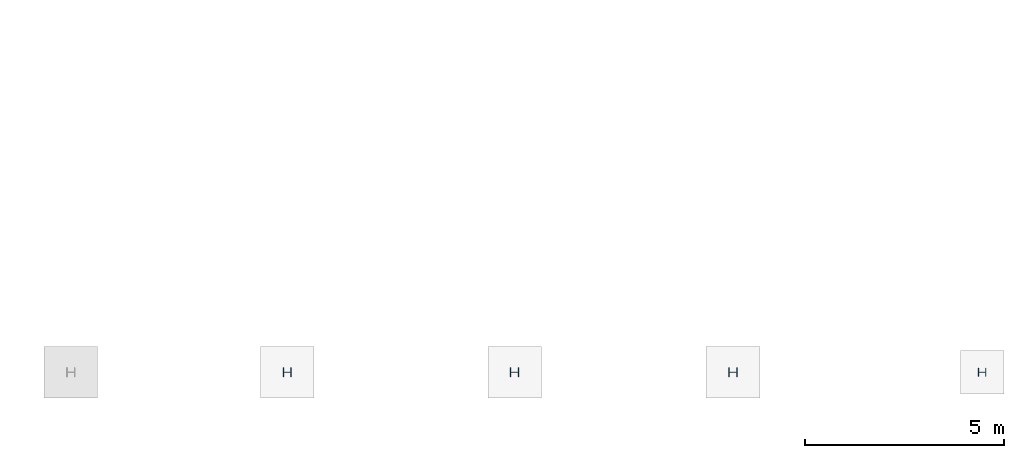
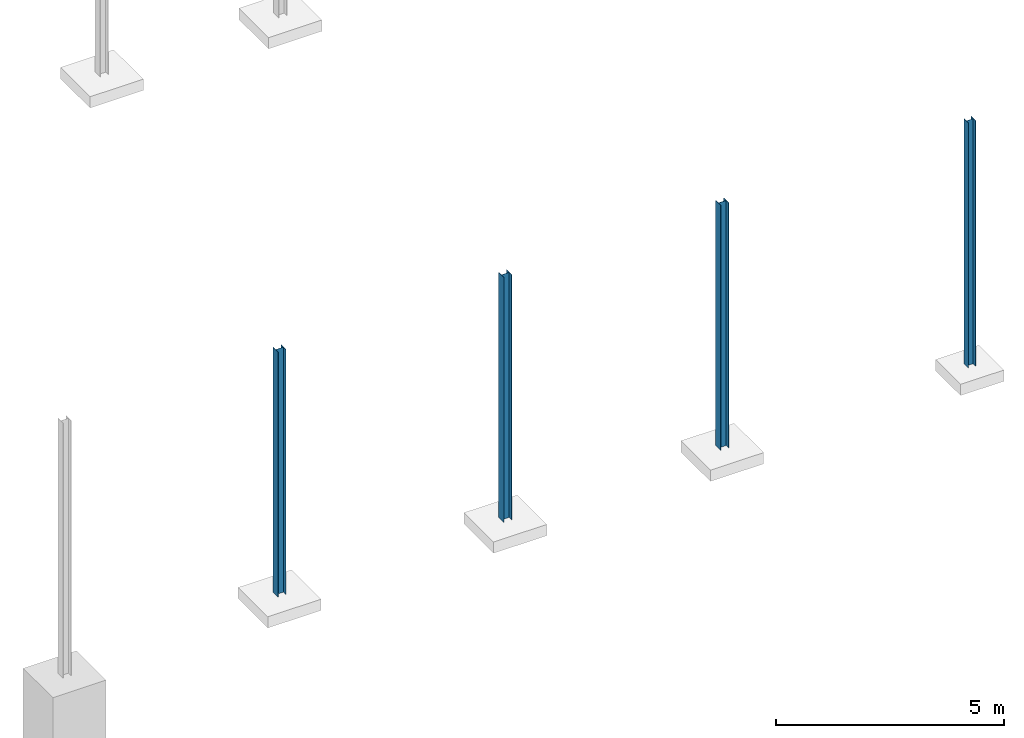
# One storey, part 33 of 59: 4 columns.
"""IFC2X3 building model written with IfcOpenShell, lengths in metres."""

from ifc_helpers import new_model, entity, si_unit, converted_unit, derived_unit, frame, origin, origin_with_axes, place, context, subcontext, project, spatial, polyline, outline, extrude, material, element, save


model = new_model("IFC2X3")

# Units and contexts
model_context = context("Model", 3, precision=1e-05, world=origin())
body_context = subcontext(model_context, "Body", "Model", "MODEL_VIEW")
ifc_project = project(units=[si_unit("LENGTHUNIT", "METRE"), si_unit("AREAUNIT", "SQUARE_METRE"), si_unit("VOLUMEUNIT", "CUBIC_METRE"), si_unit("MASSUNIT", "GRAM", prefix="KILO"), converted_unit("PLANEANGLEUNIT", "DEGREE", entity("IfcPlaneAngleMeasure", 0.0174532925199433), si_unit("PLANEANGLEUNIT", "RADIAN"), dimensions=[0, 0, 0, 0, 0, 0, 0]), derived_unit("THERMALTRANSMITTANCEUNIT", [(si_unit("POWERUNIT", "WATT"), 1), (si_unit("THERMODYNAMICTEMPERATUREUNIT", "KELVIN"), -1), (si_unit("LENGTHUNIT", "METRE"), -2)]), derived_unit("VOLUMETRICFLOWRATEUNIT", [(si_unit("LENGTHUNIT", "METRE"), 3), (converted_unit("TIMEUNIT", "hour", entity("IfcTimeMeasure", 3600.0), si_unit("TIMEUNIT", "SECOND"), dimensions=[0, 0, 1, 0, 0, 0, 0]), -1), (si_unit("LENGTHUNIT", "METRE"), -1)])], contexts=[model_context])

# Site, building, storey
site_placement = place(None, origin())
site = spatial("IfcSite", under=ifc_project, at=site_placement, Name="TWP_Speiseverteilzentrum SBW VZ II", CompositionType="ELEMENT")
building_placement = place(site_placement, origin())
building = spatial("IfcBuilding", under=site, at=building_placement, Name="Speiseverteilzentrum SBW VZ II", CompositionType="ELEMENT")
storey_placement = place(building_placement, frame((0.0, 0.0, 1.7307)))
storey = spatial("IfcBuildingStorey", under=building, at=storey_placement, Name="EG_Produktion_FFB", CompositionType="ELEMENT", Elevation=1.7307)

# Columns
ifc_material_1 = material(Name="S235")
column_1_placement = place(storey_placement, frame((101.47, 10.5801485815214, -1.05)))
element("IfcColumn", 1, at=column_1_placement, inside=storey, material=ifc_material_1, Name="Stahlstütze", context=body_context, shape_type="SweptSolid", body=[
    extrude(outline(polyline([(0.21, 0.0), (0.21, 0.22), (0.199, 0.22), (0.199, 0.1135), (0.011, 0.1135), (0.011, 0.22), (0.0, 0.22), (0.0, 0.0), (0.011, 0.0), (0.011, 0.1065), (0.199, 0.1065), (0.199, 0.0), (0.21, 0.0)])), origin_with_axes(), (0.0, 0.0, 1.0), 6.5693),
])
ifc_material_2 = material(Name="S235")
column_2_placement = place(storey_placement, frame((107.195, 10.5801485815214, -1.05)))
element("IfcColumn", 2, at=column_2_placement, inside=storey, material=ifc_material_2, Name="Stahlstütze", context=body_context, shape_type="SweptSolid", body=[
    extrude(outline(polyline([(0.21, 0.0), (0.21, 0.22), (0.199, 0.22), (0.199, 0.1135), (0.011, 0.1135), (0.011, 0.22), (0.0, 0.22), (0.0, 0.0), (0.011, 0.0), (0.011, 0.1065), (0.199, 0.1065), (0.199, 0.0), (0.21, 0.0)])), origin_with_axes(), (0.0, 0.0, 1.0), 6.5693),
])
ifc_material_3 = material(Name="S235")
column_3_placement = place(storey_placement, frame((112.695, 10.5801485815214, -1.05)))
element("IfcColumn", 3, at=column_3_placement, inside=storey, material=ifc_material_3, Name="Stahlstütze", context=body_context, shape_type="SweptSolid", body=[
    extrude(outline(polyline([(0.21, 0.0), (0.21, 0.22), (0.199, 0.22), (0.199, 0.1135), (0.011, 0.1135), (0.011, 0.22), (0.0, 0.22), (0.0, 0.0), (0.011, 0.0), (0.011, 0.1065), (0.199, 0.1065), (0.199, 0.0), (0.21, 0.0)])), origin_with_axes(), (0.0, 0.0, 1.0), 6.5693),
])
ifc_material_4 = material(Name="S235")
column_4_placement = place(storey_placement, frame((118.98, 10.5901485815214, -1.05)))
element("IfcColumn", 4, at=column_4_placement, inside=storey, material=ifc_material_4, Name="Stahlstütze", context=body_context, shape_type="SweptSolid", body=[
    extrude(outline(polyline([(0.19, 0.0), (0.19, 0.2), (0.18, 0.2), (0.18, 0.10325), (0.01, 0.10325), (0.01, 0.2), (0.0, 0.2), (0.0, 0.0), (0.01, 0.0), (0.01, 0.09675), (0.18, 0.09675), (0.18, 0.0), (0.19, 0.0)])), origin_with_axes(), (0.0, 0.0, 1.0), 6.5693),
])

save(model, "model.ifc")
